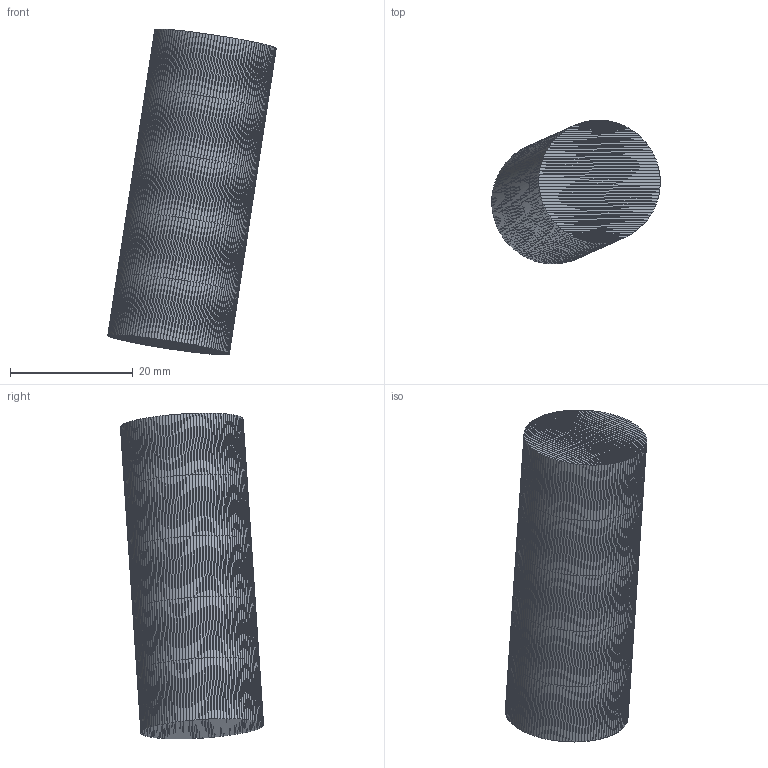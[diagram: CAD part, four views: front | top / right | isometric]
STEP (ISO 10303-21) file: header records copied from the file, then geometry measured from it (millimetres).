
FILE_DESCRIPTION((''),'2;1');
FILE_NAME('Pneumatic Pipe x2', '2025-03-27T07:35:52', (''), (''), 'ImageToStl.com STEP Converter','', '');
FILE_SCHEMA(('AUTOMOTIVE_DESIGN_CC2'));
Length unit declared in the file: metre
Products named in the file (1): product0
Bounding box: 27.41 x 23.28 x 52.99 mm (x, y, z)
Surface area: 3792.9 mm2 (no closed solid volume)
Topology: 0 solids, 1484 shells, 1484 faces, 4452 edges, 744 vertices
Faces by surface type: plane 1484
Entity records: 35655 total; most frequent: DIRECTION 7422, ORIENTED_EDGE 4452, EDGE_CURVE 4452, LINE 4452, VECTOR 4452, AXIS2_PLACEMENT_3D 1485, STYLED_ITEM 1485, FACE_SURFACE 1484
